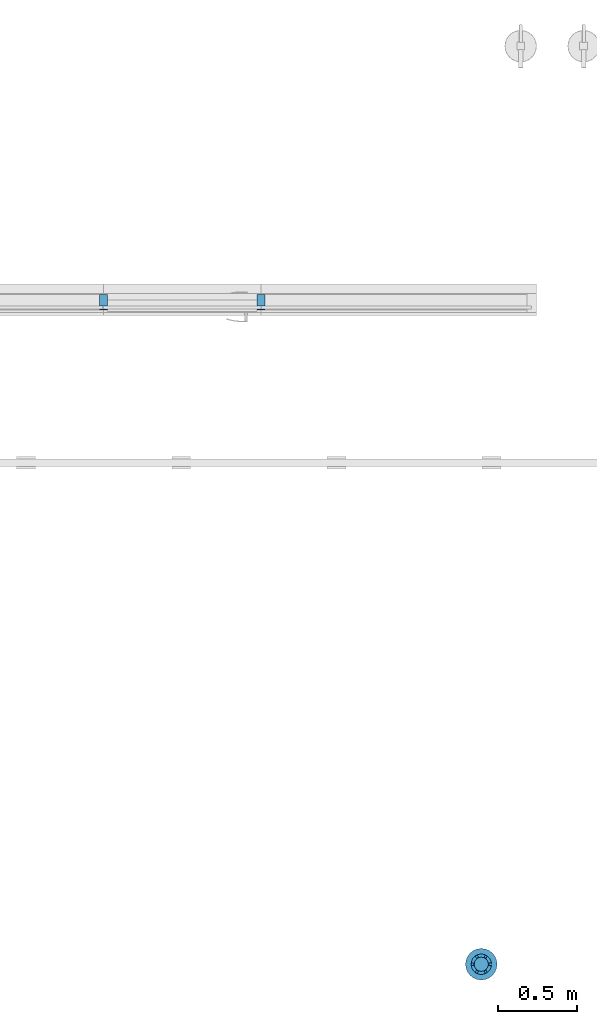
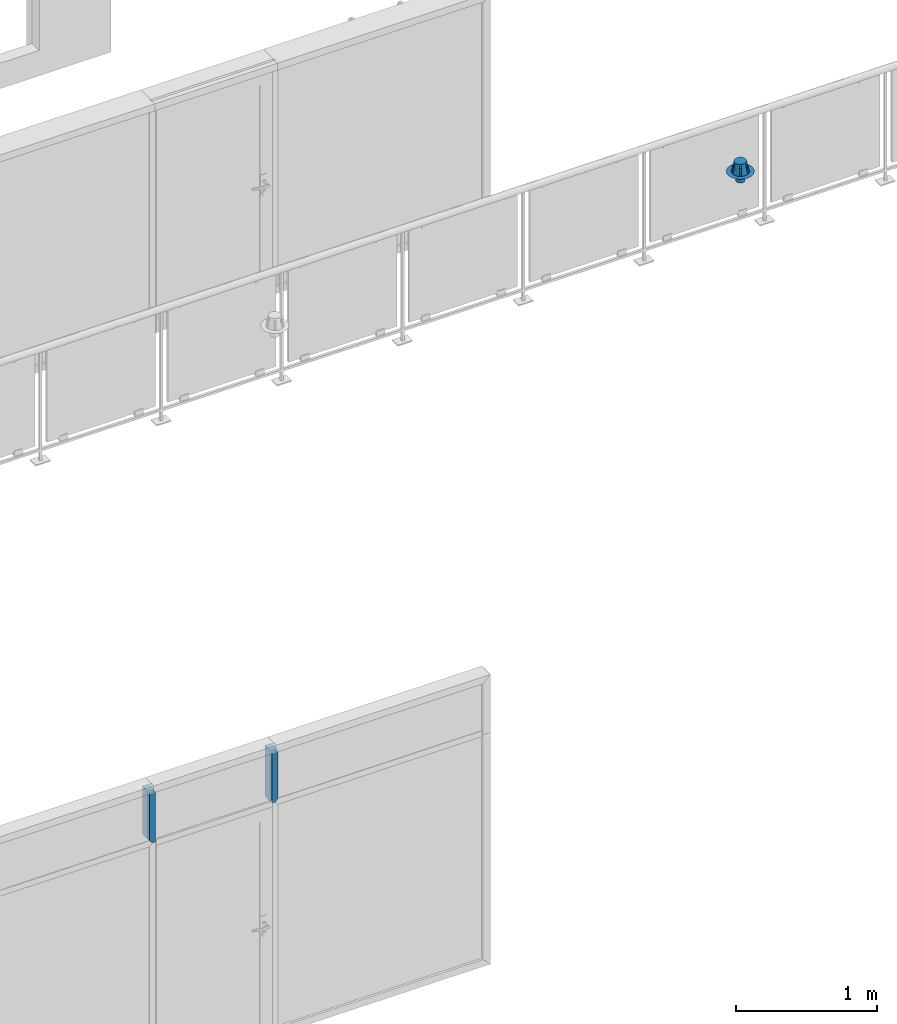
# One storey, part 5 of 7: 2 members, 1 beam, 1 element without a shape of its own.
"""IFC4 building model written with IfcOpenShell, lengths in millimetres."""

from ifc_helpers import new_model, entity, si_unit, converted_unit, derived_unit, direction, frame, origin_with_axes, place, context, subcontext, project, spatial, polygons, material, type_object, element, aggregate, save


model = new_model("IFC4")

# Units and contexts
model_context = context("Model", 3, precision=0.01, world=origin_with_axes(), true_north=direction((0.0, 1.0)))
body_context = subcontext(model_context, "Body", "Model", "MODEL_VIEW")
ifc_project = project(units=[si_unit("LENGTHUNIT", "METRE", prefix="MILLI"), si_unit("AREAUNIT", "SQUARE_METRE"), si_unit("VOLUMEUNIT", "CUBIC_METRE"), converted_unit("PLANEANGLEUNIT", "DEGREE", entity("IfcPlaneAngleMeasure", 0.0174532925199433), si_unit("PLANEANGLEUNIT", "RADIAN"), dimensions=[0, 0, 0, 0, 0, 0, 0]), converted_unit("TIMEUNIT", "Year", entity("IfcTimeMeasure", 31557600.0), si_unit("TIMEUNIT", "SECOND"), dimensions=[0, 0, 1, 0, 0, 0, 0]), si_unit("MASSUNIT", "GRAM", prefix="KILO"), si_unit("THERMODYNAMICTEMPERATUREUNIT", "DEGREE_CELSIUS"), si_unit("LUMINOUSINTENSITYUNIT", "LUMEN"), si_unit("ENERGYUNIT", "JOULE", prefix="MEGA"), derived_unit("THERMALCONDUCTANCEUNIT", [(si_unit("POWERUNIT", "WATT"), 1), (si_unit("LENGTHUNIT", "METRE"), -1), (si_unit("THERMODYNAMICTEMPERATUREUNIT", "KELVIN"), -1)]), derived_unit("SPECIFICHEATCAPACITYUNIT", [(si_unit("ENERGYUNIT", "JOULE"), 1), (si_unit("MASSUNIT", "GRAM", prefix="KILO"), -1), (si_unit("THERMODYNAMICTEMPERATUREUNIT", "KELVIN"), -1)]), derived_unit("MASSDENSITYUNIT", [(si_unit("MASSUNIT", "GRAM", prefix="KILO"), 1), (si_unit("VOLUMEUNIT", "CUBIC_METRE"), -1)])], contexts=[model_context])

# Site, building, storey
site_placement = place(None, origin_with_axes())
site = spatial("IfcSite", under=ifc_project, at=site_placement, Name="Exteriér", CompositionType="ELEMENT")
building_placement = place(site_placement, origin_with_axes())
building = spatial("IfcBuilding", under=site, at=building_placement, Name="Univerzitní lezecké centrum", CompositionType="ELEMENT")
storey_placement = place(building_placement, frame((0.0, 0.0, 6400.0), z_axis=(0.0, 0.0, 1.0), x_axis=(1.0, 0.0, 0.0)))
storey = spatial("IfcBuildingStorey", under=building, at=storey_placement, Name="3.NP", CompositionType="ELEMENT", Elevation=6400.0)

# Curtain wall, members
curtain_wall_type = type_object("IfcCurtainWallType", Name="Typ lehkého obvodového pláště", PredefinedType="NOTDEFINED")
curtain_wall_placement = place(storey_placement, frame((1075.010273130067, -270.0000000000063, -6400.000000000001), z_axis=(0.0, 0.0, 1.0), x_axis=(1.0, 0.0, 0.0)))
curtain_wall = element("IfcCurtainWall", 1, at=curtain_wall_placement, inside=storey, type_object=curtain_wall_type, Name="LOP06", PredefinedType="NOTDEFINED")
ifc_material = material(Name="Hliník")
member_type = type_object("IfcMemberType", Name="50 x 100", PredefinedType="NOTDEFINED")
member_1_placement = place(curtain_wall_placement, frame((875.0833138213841, 0.0, 1999.999935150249), z_axis=(0.0, 0.0, 1.0), x_axis=(-1.0, 0.0, 0.0)))
member_1 = element("IfcMember", 2, at=member_1_placement, type_object=member_type, material=ifc_material, Name="RS026", PredefinedType="NOTDEFINED", context=body_context, shape_type="Tessellation", body=[
    polygons([(0.0, -10.00000000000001, 0.0), (-24.99999999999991, -10.00000000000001, 0.0), (-24.99999999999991, -10.00000000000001, 439.9999963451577), (0.0, -10.00000000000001, 439.9999963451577), (24.99999999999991, -10.00000000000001, 439.9999963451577), (24.99999999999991, -10.00000000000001, 25.00000000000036), (0.0, -85.00000000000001, 0.0), (-24.99999999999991, -85.00000000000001, 0.0), (-24.99999999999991, -85.00000000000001, 439.9999963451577), (24.99999999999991, -85.00000000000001, 439.9999963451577), (24.99999999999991, -85.00000000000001, 25.00000000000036)], [[[1, 2, 3, 4, 5, 6]], [[2, 1, 7, 8]], [[3, 2, 8, 9]], [[4, 3, 9, 10, 5]], [[5, 10, 11, 6]], [[6, 11, 7, 1]], [[8, 7, 11, 10, 9]]], closed=True),
    polygons([(-24.99999999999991, 10.00000000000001, 439.9999963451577), (0.0, 10.00000000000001, 439.9999963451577), (24.99999999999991, 10.00000000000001, 439.9999963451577), (24.99999999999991, 15.00000000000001, 439.9999963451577), (-24.99999999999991, 15.00000000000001, 439.9999963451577), (-24.99999999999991, 10.00000000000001, 0.0), (0.0, 10.00000000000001, 0.0), (24.99999999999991, 10.00000000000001, 25.00000000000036), (24.99999999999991, 15.00000000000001, 25.00000000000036), (0.0, 15.00000000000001, 0.0), (-24.99999999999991, 15.00000000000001, 0.0)], [[[1, 2, 3, 4, 5]], [[2, 1, 6, 7, 8, 3]], [[8, 9, 4, 3]], [[4, 9, 10, 11, 5]], [[6, 1, 5, 11]], [[7, 6, 11, 10]], [[7, 10, 9, 8]]], closed=True),
])
member_2_placement = place(curtain_wall_placement, frame((1875.083313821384, 0.0, 1999.999935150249), z_axis=(0.0, 0.0, 1.0), x_axis=(-1.0, 0.0, 0.0)))
member_2 = element("IfcMember", 3, at=member_2_placement, type_object=member_type, material=ifc_material, Name="RS026", PredefinedType="NOTDEFINED", context=body_context, shape_type="Tessellation", body=[
    polygons([(0.0, -10.00000000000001, 0.0), (-24.99999999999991, -10.00000000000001, 25.00000000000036), (-24.99999999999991, -10.00000000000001, 439.9999963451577), (0.0, -10.00000000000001, 439.9999963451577), (24.99999999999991, -10.00000000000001, 439.9999963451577), (24.99999999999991, -10.00000000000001, 0.0), (0.0, -85.00000000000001, 0.0), (-24.99999999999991, -85.00000000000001, 25.00000000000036), (-24.99999999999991, -85.00000000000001, 439.9999963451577), (24.99999999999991, -85.00000000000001, 439.9999963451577), (24.99999999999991, -85.00000000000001, 0.0)], [[[1, 2, 3, 4, 5, 6]], [[2, 1, 7, 8]], [[3, 2, 8, 9]], [[4, 3, 9, 10, 5]], [[5, 10, 11, 6]], [[6, 11, 7, 1]], [[9, 8, 7, 11, 10]]], closed=True),
    polygons([(-24.99999999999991, 10.00000000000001, 439.9999963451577), (0.0, 10.00000000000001, 439.9999963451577), (24.99999999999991, 10.00000000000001, 439.9999963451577), (24.99999999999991, 15.00000000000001, 439.9999963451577), (-24.99999999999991, 15.00000000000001, 439.9999963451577), (-24.99999999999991, 10.00000000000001, 25.00000000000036), (0.0, 10.00000000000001, 0.0), (24.99999999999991, 10.00000000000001, 0.0), (24.99999999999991, 15.00000000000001, 0.0), (0.0, 15.00000000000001, 0.0), (-24.99999999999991, 15.00000000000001, 25.00000000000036)], [[[1, 2, 3, 4, 5]], [[2, 1, 6, 7, 8, 3]], [[8, 9, 4, 3]], [[9, 10, 11, 5, 4]], [[6, 1, 5, 11]], [[7, 6, 11, 10]], [[7, 10, 9, 8]]], closed=True),
])
aggregate(curtain_wall, [member_1, member_2])

# Beam
beam_type = type_object("IfcBeamType", Name="Kruhová střešní vpusť 27", PredefinedType="BEAM")
beam_placement = place(storey_placement, frame((4349.728196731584, -4439.82605492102, 3076.02698563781), z_axis=(0.0, 0.0, 1.0), x_axis=(0.9999999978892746, -6.497269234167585e-05, 0.0)))
element("IfcBeam", 4, at=beam_placement, inside=storey, type_object=beam_type, Name="OV06", PredefinedType="BEAM", context=body_context, shape_type="Tessellation", body=[
    polygons([(-100.0, 0.0, 0.0), (-96.59258262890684, 25.88190451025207, 0.0), (-86.60254037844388, 49.99999999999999, 0.0), (-70.71067811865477, 70.71067811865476, 0.0), (-50.00000000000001, 86.60254037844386, 0.0), (-25.88190451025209, 96.59258262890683, 0.0), (0.0, 100.0, 0.0), (25.88190451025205, 96.59258262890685, 0.0), (49.99999999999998, 86.60254037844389, 0.0), (70.71067811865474, 70.7106781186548, 0.0), (86.60254037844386, 50.00000000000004, 0.0), (96.59258262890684, 25.88190451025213, 0.0), (100.0, 0.0, 0.0), (96.59258262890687, -25.88190451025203, 0.0), (86.60254037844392, -49.99999999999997, 0.0), (70.71067811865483, -70.71067811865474, 0.0), (50.00000000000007, -86.60254037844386, 0.0), (25.88190451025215, -96.59258262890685, 0.0), (0.0, -100.0, 0.0), (-25.88190451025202, -96.59258262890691, 0.0), (-49.99999999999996, -86.60254037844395, 0.0), (-70.71067811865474, -70.71067811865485, 0.0), (-86.60254037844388, -50.0000000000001, 0.0), (-96.59258262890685, -25.88190451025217, 0.0), (-33.00000000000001, 0.0, 0.0), (-31.87555226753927, -8.54102848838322, 0.0), (-28.57883832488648, -16.50000000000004, 0.0), (-23.33452377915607, -23.3345237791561, 0.0), (-16.49999999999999, -28.57883832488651, 0.0), (-8.541028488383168, -31.87555226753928, 0.0), (0.0, -33.00000000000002, 0.0), (8.54102848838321, -31.87555226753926, 0.0), (16.50000000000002, -28.57883832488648, 0.0), (23.33452377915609, -23.33452377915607, 0.0), (28.5788383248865, -16.49999999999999, 0.0), (31.87555226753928, -8.541028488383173, 0.0), (33.00000000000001, 0.0, 0.0), (31.87555226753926, 8.541028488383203, 0.0), (28.57883832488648, 16.50000000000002, 0.0), (23.33452377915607, 23.33452377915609, 0.0), (16.5, 28.57883832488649, 0.0), (8.541028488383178, 31.87555226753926, 0.0), (0.0, 33.00000000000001, 0.0), (-8.541028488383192, 31.87555226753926, 0.0), (-16.50000000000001, 28.57883832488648, 0.0), (-23.33452377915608, 23.33452377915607, 0.0), (-28.57883832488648, 16.5, 0.0), (-31.87555226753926, 8.541028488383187, 0.0)], [[[1, 2, 3, 4, 5, 6, 7, 8, 9, 10, 11, 12, 13, 14, 15, 16, 17, 18, 19, 20, 21, 22, 23, 24], [25, 26, 27, 28, 29, 30, 31, 32, 33, 34, 35, 36, 37, 38, 39, 40, 41, 42, 43, 44, 45, 46, 47, 48]]], closed=False),
    polygons([(-31.96492204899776, -55.36486904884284, 4.500000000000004), (-32.44999999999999, -56.20504870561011, 0.09999999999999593), (-16.79735602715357, -62.68858612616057, 0.09999999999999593), (-11.67273893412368, -43.563254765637, 89.89999999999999), (-22.55, -39.05774571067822, 89.89999999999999), (-24.02728285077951, -41.61647466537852, 76.5), (-17.31795095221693, -44.39557093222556, 76.5), (-25.25559015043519, -58.14396531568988, 4.499999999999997), (-29.78871676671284, -37.19557093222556, 76.5), (-31.8905158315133, -31.89051583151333, 89.89999999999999), (-45.89123009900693, -45.89123009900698, 0.09999999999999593), (-37.72635596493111, -50.94396531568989, 4.499999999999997), (-32.49999999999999, -56.29165124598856, 0.0), (-16.82323793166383, -62.78517870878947, 0.0), (0.0, -45.10000000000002, 89.89999999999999), (0.0, -64.90000000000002, 0.1000000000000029), (-11.64685702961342, -43.46666218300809, 90.0), (-22.5, -38.97114317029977, 90.0), (-31.81980515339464, -31.81980515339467, 90.0), (-39.0577457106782, -22.55000000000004, 89.89999999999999), (-56.20504870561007, -32.45000000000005, 0.09999999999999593), (-45.96194077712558, -45.96194077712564, 0.0), (0.0, -65.00000000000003, 0.0), (0.0, -45.00000000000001, 90.0), (11.6727389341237, -43.56325476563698, 89.89999999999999), (16.79735602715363, -62.68858612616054, 0.1000000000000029), (11.64685702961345, -43.46666218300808, 90.0), (22.50000000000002, -38.97114317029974, 90.0), (31.81980515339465, -31.81980515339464, 90.0), (38.97114317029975, -22.49999999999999, 90.0), (43.46666218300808, -11.64685702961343, 90.0), (45.0, 0.0, 90.0), (43.46666218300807, 11.64685702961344, 90.0), (38.97114317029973, 22.50000000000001, 90.0), (31.81980515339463, 31.81980515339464, 90.0), (22.49999999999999, 38.97114317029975, 90.0), (11.64685702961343, 43.46666218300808, 90.0), (0.0, 45.00000000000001, 90.0), (-11.64685702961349, 43.46666218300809, 90.0), (-22.50000000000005, 38.97114317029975, 90.0), (-31.81980515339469, 31.81980515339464, 90.0), (-38.97114317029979, 22.49999999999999, 90.0), (-43.46666218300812, 11.64685702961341, 90.0), (-45.00000000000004, 0.0, 90.0), (-43.46666218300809, -11.64685702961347, 90.0), (-38.97114317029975, -22.50000000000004, 90.0), (-43.563254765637, -11.67273893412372, 89.89999999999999), (-62.68858612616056, -16.79735602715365, 0.09999999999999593), (-56.29165124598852, -32.50000000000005, 0.0), (16.82323793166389, -62.78517870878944, 0.0), (32.45000000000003, -56.20504870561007, 0.1000000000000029), (31.96492204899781, -55.36486904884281, 4.49999999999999), (25.25559015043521, -58.14396531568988, 4.500000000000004), (17.31795095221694, -44.39557093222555, 76.5), (24.02728285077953, -41.6164746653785, 76.49999999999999), (22.55000000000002, -39.05774571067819, 89.89999999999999), (31.89051583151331, -31.89051583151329, 89.89999999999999), (39.0577457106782, -22.54999999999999, 89.89999999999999), (43.56325476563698, -11.67273893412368, 89.89999999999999), (45.1, 0.0, 89.89999999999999), (43.56325476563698, 11.67273893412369, 89.89999999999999), (39.05774571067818, 22.55000000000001, 89.89999999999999), (31.89051583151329, 31.89051583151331, 89.89999999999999), (22.54999999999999, 39.0577457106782, 89.89999999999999), (11.67273893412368, 43.56325476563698, 89.89999999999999), (0.0, 45.10000000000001, 89.89999999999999), (-11.67273893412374, 43.563254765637, 89.89999999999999), (-22.55000000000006, 39.0577457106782, 89.89999999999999), (-31.89051583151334, 31.89051583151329, 89.89999999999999), (-39.05774571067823, 22.54999999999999, 89.89999999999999), (-43.56325476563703, 11.67273893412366, 89.89999999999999), (-45.10000000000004, 0.0, 89.89999999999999), (-48.05456570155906, 0.0, 76.5), (-47.1066677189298, -7.200000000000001, 76.5), (-62.98194611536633, -7.200000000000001, 4.499999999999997), (-63.92984409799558, 0.0, 4.500000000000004), (-64.90000000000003, 0.0, 0.09999999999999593), (-62.78517870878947, -16.8232379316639, 0.0), (32.50000000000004, -56.29165124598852, 0.0), (29.78871676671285, -37.19557093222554, 76.5), (37.72635596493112, -50.94396531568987, 4.500000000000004), (45.89123009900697, -45.89123009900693, 0.1000000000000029), (56.2050487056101, -32.45, 0.1000000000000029), (62.68858612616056, -16.79735602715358, 0.1000000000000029), (47.10666771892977, -7.200000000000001, 76.5), (48.05456570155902, 0.0, 76.5), (64.90000000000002, 0.0, 0.1000000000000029), (63.92984409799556, 0.0, 4.500000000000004), (62.98194611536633, -7.200000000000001, 4.500000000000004), (62.98194611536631, 7.200000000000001, 4.500000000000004), (62.68858612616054, 16.79735602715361, 0.1000000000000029), (47.10666771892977, 7.200000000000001, 76.5), (56.20504870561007, 32.45000000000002, 0.1000000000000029), (45.89123009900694, 45.89123009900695, 0.1000000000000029), (24.0272828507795, 41.6164746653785, 76.5), (32.45, 56.20504870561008, 0.1000000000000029), (31.96492204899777, 55.36486904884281, 4.500000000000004), (37.7263559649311, 50.94396531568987, 4.500000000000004), (29.78871676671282, 37.19557093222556, 76.5), (16.7973560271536, 62.68858612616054, 0.1000000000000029), (17.31795095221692, 44.39557093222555, 76.5), (25.25559015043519, 58.14396531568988, 4.500000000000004), (0.0, 64.90000000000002, 0.1000000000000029), (-16.79735602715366, 62.68858612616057, 0.09999999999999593), (-32.45000000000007, 56.20504870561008, 0.09999999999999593), (-31.96492204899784, 55.36486904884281, 4.500000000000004), (-25.25559015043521, 58.14396531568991, 4.499999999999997), (-17.31795095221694, 44.39557093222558, 76.5), (-24.02728285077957, 41.6164746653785, 76.49999999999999), (-29.78871676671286, 37.19557093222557, 76.5), (-37.72635596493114, 50.9439653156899, 4.499999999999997), (-45.891230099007, 45.89123009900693, 0.09999999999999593), (-56.20504870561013, 32.44999999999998, 0.09999999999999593), (-62.68858612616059, 16.79735602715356, 0.09999999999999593), (-62.98194611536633, 7.200000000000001, 4.499999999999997), (-47.1066677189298, 7.200000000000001, 76.5), (-65.00000000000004, 0.0, 0.0), (45.96194077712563, -45.96194077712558, 0.0), (56.29165124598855, -32.49999999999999, 0.0), (62.78517870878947, -16.82323793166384, 0.0), (65.00000000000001, 0.0, 0.0), (62.78517870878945, 16.82323793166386, 0.0), (56.29165124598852, 32.50000000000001, 0.0), (45.9619407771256, 45.9619407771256, 0.0), (32.5, 56.29165124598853, 0.0), (16.82323793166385, 62.78517870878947, 0.0), (0.0, 65.00000000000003, 0.0), (-16.82323793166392, 62.78517870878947, 0.0), (-32.50000000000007, 56.29165124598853, 0.0), (-45.96194077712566, 45.96194077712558, 0.0), (-56.29165124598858, 32.49999999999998, 0.0), (-62.78517870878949, 16.82323793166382, 0.0)], [[[1, 2, 3, 4, 5, 6, 7, 8]], [[9, 6, 5, 10, 11, 2, 1, 12]], [[13, 14, 3, 2]], [[15, 4, 3, 16]], [[5, 4, 17, 18]], [[10, 5, 18, 19]], [[10, 20, 21, 11]], [[22, 13, 2, 11]], [[14, 23, 16, 3]], [[4, 15, 24, 17]], [[25, 15, 16, 26]], [[19, 18, 17, 24, 27, 28, 29, 30, 31, 32, 33, 34, 35, 36, 37, 38, 39, 40, 41, 42, 43, 44, 45, 46]], [[20, 10, 19, 46]], [[20, 47, 48, 21]], [[49, 22, 11, 21]], [[23, 50, 26, 16]], [[15, 25, 27, 24]], [[26, 51, 52, 53, 54, 55, 56, 25]], [[25, 56, 28, 27]], [[56, 57, 29, 28]], [[57, 58, 30, 29]], [[58, 59, 31, 30]], [[59, 60, 32, 31]], [[60, 61, 33, 32]], [[61, 62, 34, 33]], [[62, 63, 35, 34]], [[63, 64, 36, 35]], [[64, 65, 37, 36]], [[65, 66, 38, 37]], [[66, 67, 39, 38]], [[67, 68, 40, 39]], [[68, 69, 41, 40]], [[69, 70, 42, 41]], [[70, 71, 43, 42]], [[71, 72, 44, 43]], [[72, 47, 45, 44]], [[47, 20, 46, 45]], [[47, 72, 73, 74, 75, 76, 77, 48]], [[78, 49, 21, 48]], [[50, 79, 51, 26]], [[57, 56, 55, 80, 81, 52, 51, 82]], [[58, 57, 82, 83]], [[59, 58, 83, 84]], [[85, 86, 60, 59, 84, 87, 88, 89]], [[90, 88, 87, 91, 61, 60, 86, 92]], [[62, 61, 91, 93]], [[63, 62, 93, 94]], [[95, 64, 63, 94, 96, 97, 98, 99]], [[97, 96, 100, 65, 64, 95, 101, 102]], [[66, 65, 100, 103]], [[67, 66, 103, 104]], [[104, 105, 106, 107, 108, 109, 68, 67]], [[69, 68, 109, 110, 111, 106, 105, 112]], [[70, 69, 112, 113]], [[71, 70, 113, 114]], [[114, 77, 76, 115, 116, 73, 72, 71]], [[117, 78, 48, 77]], [[79, 118, 82, 51]], [[118, 119, 83, 82]], [[119, 120, 84, 83]], [[120, 121, 87, 84]], [[121, 122, 91, 87]], [[122, 123, 93, 91]], [[123, 124, 94, 93]], [[124, 125, 96, 94]], [[125, 126, 100, 96]], [[126, 127, 103, 100]], [[127, 128, 104, 103]], [[128, 129, 105, 104]], [[129, 130, 112, 105]], [[130, 131, 113, 112]], [[131, 132, 114, 113]], [[132, 117, 77, 114]]], closed=False),
    polygons([(0.0, -33.00000000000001, 0.0), (0.0, -33.0, -80.0), (8.541028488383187, -31.87555226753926, -80.0), (8.541028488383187, -31.87555226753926, 0.0), (-8.54102848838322, -31.87555226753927, 0.0), (-8.54102848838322, -31.87555226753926, -80.0), (16.5, -28.57883832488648, -80.0), (16.5, -28.57883832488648, 0.0), (-16.50000000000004, -28.57883832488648, 0.0), (-16.50000000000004, -28.57883832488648, -80.0), (23.33452377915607, -23.33452377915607, -80.0), (23.33452377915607, -23.33452377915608, 0.0), (-23.3345237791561, -23.33452377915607, 0.0), (-23.3345237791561, -23.33452377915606, -80.0), (28.57883832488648, -16.5, -80.0), (28.57883832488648, -16.50000000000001, 0.0), (-28.57883832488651, -16.49999999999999, 0.0), (-28.57883832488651, -16.49999999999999, -80.0), (31.87555226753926, -8.541028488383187, -80.0), (31.87555226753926, -8.541028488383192, 0.0), (-31.87555226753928, -8.541028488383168, 0.0), (-31.87555226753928, -8.541028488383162, -80.0), (33.00000000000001, 0.0, -80.0), (33.00000000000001, 0.0, 0.0), (-33.00000000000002, 0.0, 0.0), (-33.00000000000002, 0.0, -80.0), (31.87555226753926, 8.541028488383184, -80.0), (31.87555226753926, 8.541028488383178, 0.0), (-31.87555226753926, 8.54102848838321, 0.0), (-31.87555226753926, 8.541028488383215, -80.0), (28.57883832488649, 16.5, -80.0), (28.57883832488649, 16.5, 0.0), (-28.57883832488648, 16.50000000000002, 0.0), (-28.57883832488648, 16.50000000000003, -80.0), (23.33452377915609, 23.33452377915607, -80.0), (23.33452377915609, 23.33452377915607, 0.0), (-23.33452377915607, 23.33452377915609, 0.0), (-23.33452377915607, 23.3345237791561, -80.0), (16.50000000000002, 28.57883832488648, -80.0), (16.50000000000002, 28.57883832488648, 0.0), (-16.49999999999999, 28.5788383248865, 0.0), (-16.49999999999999, 28.5788383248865, -80.0), (8.541028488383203, 31.87555226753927, -80.0), (8.541028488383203, 31.87555226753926, 0.0), (-8.541028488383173, 31.87555226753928, 0.0), (-8.541028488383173, 31.87555226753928, -80.0), (0.0, 33.00000000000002, -80.0), (0.0, 33.00000000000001, 0.0)], [[[1, 2, 3, 4]], [[5, 6, 2, 1]], [[4, 3, 7, 8]], [[9, 10, 6, 5]], [[8, 7, 11, 12]], [[13, 14, 10, 9]], [[12, 11, 15, 16]], [[17, 18, 14, 13]], [[16, 15, 19, 20]], [[21, 22, 18, 17]], [[20, 19, 23, 24]], [[25, 26, 22, 21]], [[24, 23, 27, 28]], [[29, 30, 26, 25]], [[28, 27, 31, 32]], [[33, 34, 30, 29]], [[32, 31, 35, 36]], [[37, 38, 34, 33]], [[36, 35, 39, 40]], [[41, 42, 38, 37]], [[40, 39, 43, 44]], [[45, 46, 42, 41]], [[44, 43, 47, 48]], [[48, 47, 46, 45]]], closed=False),
])

save(model, "model.ifc")
